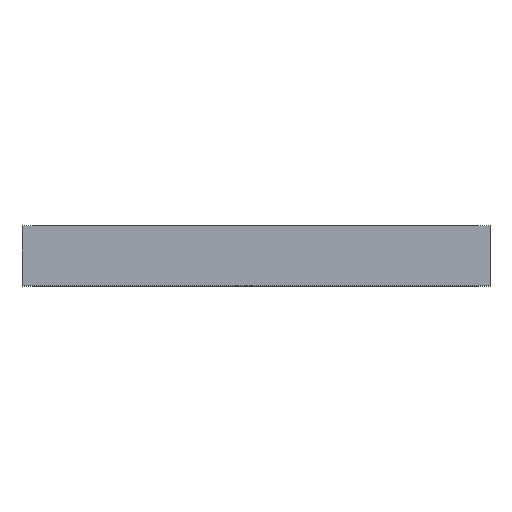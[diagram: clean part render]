
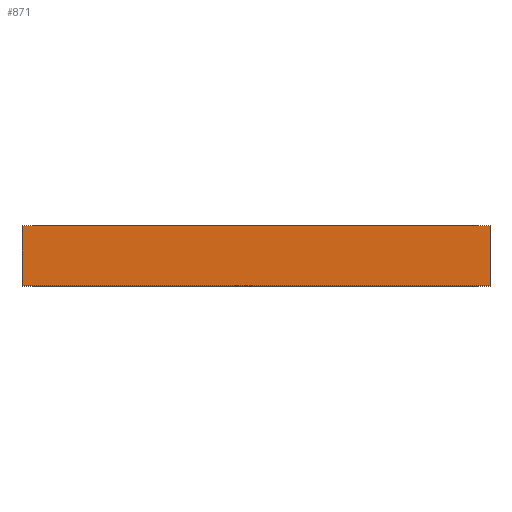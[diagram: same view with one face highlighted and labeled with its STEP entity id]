
A CAD part, top view. The second image highlights one B-rep face of the part: STEP entity #871.
In plain terms, the highlighted planar face has unit normal (0, 0, 1).
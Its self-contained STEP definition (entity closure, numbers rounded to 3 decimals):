
#39 = EDGE_LOOP ( 'NONE', ( #1140, #1139, #1192, #1129 ) ) ;
#302 = PLANE ( 'NONE',  #1314 ) ;
#305 = CARTESIAN_POINT ( 'NONE',  ( -254., 65., 264.5 ) ) ;
#311 = DIRECTION ( 'NONE',  ( 0., 0., -1. ) ) ;
#312 = DIRECTION ( 'NONE',  ( -1., 0., 0. ) ) ;
#321 = CARTESIAN_POINT ( 'NONE',  ( 254., 65., 264.5 ) ) ;
#341 = CARTESIAN_POINT ( 'NONE',  ( -254., 65., 264.5 ) ) ;
#345 = CARTESIAN_POINT ( 'NONE',  ( 254., 0., 264.5 ) ) ;
#347 = CARTESIAN_POINT ( 'NONE',  ( -254., 0., 264.5 ) ) ;
#394 = CARTESIAN_POINT ( 'NONE',  ( 254., 65., 264.5 ) ) ;
#397 = DIRECTION ( 'NONE',  ( 0., -1., 0. ) ) ;
#451 = CARTESIAN_POINT ( 'NONE',  ( -254., 65., 264.5 ) ) ;
#452 = DIRECTION ( 'NONE',  ( 0., -1., 0. ) ) ;
#501 = CARTESIAN_POINT ( 'NONE',  ( -254., 65., 264.5 ) ) ;
#502 = DIRECTION ( 'NONE',  ( 1., 0., 0. ) ) ;
#611 = CARTESIAN_POINT ( 'NONE',  ( -254., 0., 264.5 ) ) ;
#612 = DIRECTION ( 'NONE',  ( 1., 0., 0. ) ) ;
#635 = LINE ( 'NONE', #394, #645 ) ;
#640 = FACE_OUTER_BOUND ( 'NONE', #39, .T. ) ;
#645 = VECTOR ( 'NONE', #397, 1000. ) ;
#701 = LINE ( 'NONE', #451, #702 ) ;
#702 = VECTOR ( 'NONE', #452, 1000. ) ;
#751 = LINE ( 'NONE', #501, #752 ) ;
#752 = VECTOR ( 'NONE', #502, 1000. ) ;
#857 = LINE ( 'NONE', #611, #858 ) ;
#858 = VECTOR ( 'NONE', #612, 1000. ) ;
#871 = ADVANCED_FACE ( 'NONE', ( #640 ), #302, .F. ) ;
#881 = VERTEX_POINT ( 'NONE', #321 ) ;
#904 = VERTEX_POINT ( 'NONE', #341 ) ;
#909 = VERTEX_POINT ( 'NONE', #345 ) ;
#911 = VERTEX_POINT ( 'NONE', #347 ) ;
#1129 = ORIENTED_EDGE ( 'NONE', *, *, #1250, .T. ) ;
#1139 = ORIENTED_EDGE ( 'NONE', *, *, #1212, .F. ) ;
#1140 = ORIENTED_EDGE ( 'NONE', *, *, #1376, .T. ) ;
#1192 = ORIENTED_EDGE ( 'NONE', *, *, #1294, .F. ) ;
#1212 = EDGE_CURVE ( 'NONE', #881, #909, #635, .T. ) ;
#1250 = EDGE_CURVE ( 'NONE', #904, #911, #701, .T. ) ;
#1294 = EDGE_CURVE ( 'NONE', #904, #881, #751, .T. ) ;
#1314 = AXIS2_PLACEMENT_3D ( 'NONE', #305, #311, #312 ) ;
#1376 = EDGE_CURVE ( 'NONE', #911, #909, #857, .T. ) ;
